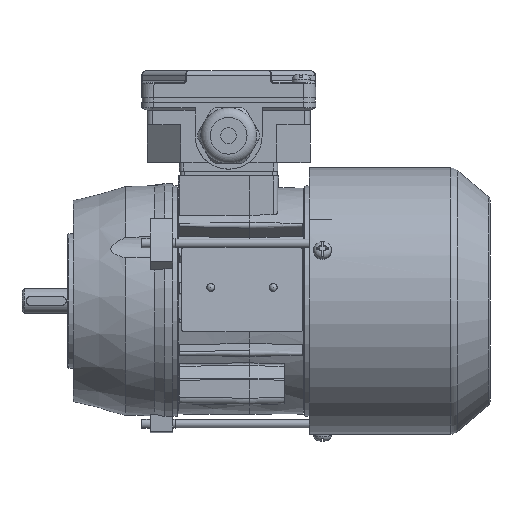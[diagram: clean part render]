
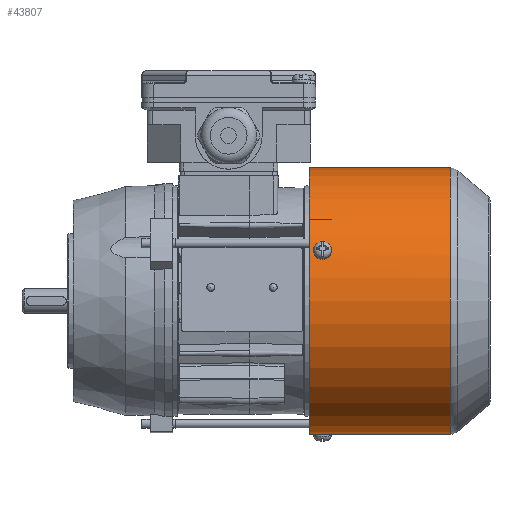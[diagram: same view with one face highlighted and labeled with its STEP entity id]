
A CAD part, front view. The second image highlights one B-rep face of the part: STEP entity #43807.
In plain terms, the highlighted cylindrical face has radius 59.6 mm (diameter 119.2 mm), a full revolution.
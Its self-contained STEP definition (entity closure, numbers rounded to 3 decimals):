
#1097=B_SPLINE_CURVE_WITH_KNOTS('',3,(#68936,#68937,#68938,#68939,#68940,
#68941,#68942),.UNSPECIFIED.,.F.,.F.,(4,1,1,1,4),(0.,0.002,
0.004,0.006,0.008),
 .UNSPECIFIED.);
#1099=B_SPLINE_CURVE_WITH_KNOTS('',3,(#68960,#68961,#68962,#68963,#68964,
#68965,#68966),.UNSPECIFIED.,.F.,.F.,(4,1,1,1,4),(0.,
0.002,0.004,0.006,0.008),
 .UNSPECIFIED.);
#1101=B_SPLINE_CURVE_WITH_KNOTS('',3,(#68988,#68989,#68990,#68991,#68992,
#68993,#68994),.UNSPECIFIED.,.F.,.F.,(4,1,1,1,4),(0.,0.002,
0.004,0.006,0.008),
 .UNSPECIFIED.);
#1103=B_SPLINE_CURVE_WITH_KNOTS('',3,(#69012,#69013,#69014,#69015,#69016,
#69017,#69018),.UNSPECIFIED.,.F.,.F.,(4,1,1,1,4),(0.,0.002,
0.004,0.006,0.008),
 .UNSPECIFIED.);
#1104=B_SPLINE_CURVE_WITH_KNOTS('',3,(#69023,#69024,#69025,#69026,#69027,
#69028,#69029),.UNSPECIFIED.,.F.,.F.,(4,1,1,1,4),(0.,
0.002,0.004,0.006,0.007),
 .UNSPECIFIED.);
#1105=B_SPLINE_CURVE_WITH_KNOTS('',3,(#69032,#69033,#69034,#69035,#69036,
#69037,#69038),.UNSPECIFIED.,.F.,.F.,(4,1,1,1,4),(0.,
0.002,0.004,0.006,0.007),
 .UNSPECIFIED.);
#14699=ORIENTED_EDGE('',*,*,#20120,.T.);
#14700=ORIENTED_EDGE('',*,*,#20117,.T.);
#14701=ORIENTED_EDGE('',*,*,#20114,.T.);
#14702=ORIENTED_EDGE('',*,*,#20122,.T.);
#14703=ORIENTED_EDGE('',*,*,#20123,.F.);
#14704=ORIENTED_EDGE('',*,*,#20124,.F.);
#14705=ORIENTED_EDGE('',*,*,#20107,.T.);
#14706=ORIENTED_EDGE('',*,*,#20104,.T.);
#14707=ORIENTED_EDGE('',*,*,#20101,.T.);
#14708=ORIENTED_EDGE('',*,*,#20109,.T.);
#14709=ORIENTED_EDGE('',*,*,#16346,.F.);
#14710=ORIENTED_EDGE('',*,*,#20110,.T.);
#16346=EDGE_CURVE('',#20956,#20956,#24041,.T.);
#20101=EDGE_CURVE('',#23454,#23457,#1097,.T.);
#20104=EDGE_CURVE('',#23458,#23454,#25081,.F.);
#20107=EDGE_CURVE('',#23460,#23458,#1099,.T.);
#20109=EDGE_CURVE('',#23457,#23460,#25083,.F.);
#20110=EDGE_CURVE('',#23462,#23462,#25084,.F.);
#20114=EDGE_CURVE('',#23463,#23466,#1101,.T.);
#20117=EDGE_CURVE('',#23467,#23463,#25086,.F.);
#20120=EDGE_CURVE('',#23469,#23467,#1103,.T.);
#20122=EDGE_CURVE('',#23466,#23469,#25088,.F.);
#20123=EDGE_CURVE('',#23471,#23472,#1104,.T.);
#20124=EDGE_CURVE('',#23472,#23471,#1105,.T.);
#20956=VERTEX_POINT('',#56552);
#23454=VERTEX_POINT('',#68924);
#23457=VERTEX_POINT('',#68935);
#23458=VERTEX_POINT('',#68945);
#23460=VERTEX_POINT('',#68951);
#23462=VERTEX_POINT('',#68973);
#23463=VERTEX_POINT('',#68976);
#23466=VERTEX_POINT('',#68987);
#23467=VERTEX_POINT('',#68997);
#23469=VERTEX_POINT('',#69003);
#23471=VERTEX_POINT('',#69030);
#23472=VERTEX_POINT('',#69031);
#24041=CIRCLE('',#44200,59.6);
#25081=CIRCLE('',#46755,59.6);
#25083=CIRCLE('',#46760,59.6);
#25084=CIRCLE('',#46762,59.6);
#25086=CIRCLE('',#46766,59.6);
#25088=CIRCLE('',#46770,59.6);
#27037=EDGE_LOOP('',(#14699,#14700,#14701,#14702));
#27038=EDGE_LOOP('',(#14703,#14704));
#27039=EDGE_LOOP('',(#14705,#14706,#14707,#14708));
#27040=EDGE_LOOP('',(#14709));
#27041=EDGE_LOOP('',(#14710));
#29154=FACE_BOUND('',#27037,.T.);
#29155=FACE_BOUND('',#27038,.T.);
#29156=FACE_BOUND('',#27039,.T.);
#29157=FACE_BOUND('',#27040,.T.);
#29158=FACE_BOUND('',#27041,.T.);
#29960=CYLINDRICAL_SURFACE('',#46771,59.6);
#43807=ADVANCED_FACE('',(#29154,#29155,#29156,#29157,#29158),#29960,.T.);
#44200=AXIS2_PLACEMENT_3D('',#56551,#47525,#47526);
#46755=AXIS2_PLACEMENT_3D('',#68948,#54544,#54545);
#46760=AXIS2_PLACEMENT_3D('',#68970,#54555,#54556);
#46762=AXIS2_PLACEMENT_3D('',#68972,#54559,#54560);
#46766=AXIS2_PLACEMENT_3D('',#69000,#54570,#54571);
#46770=AXIS2_PLACEMENT_3D('',#69021,#54579,#54580);
#46771=AXIS2_PLACEMENT_3D('',#69022,#54581,#54582);
#47525=DIRECTION('',(-1.,0.,0.));
#47526=DIRECTION('',(0.,0.,1.));
#54544=DIRECTION('',(-1.,0.,0.));
#54545=DIRECTION('',(0.,0.866,-0.5));
#54555=DIRECTION('',(1.,0.,0.));
#54556=DIRECTION('',(0.,-0.866,0.5));
#54559=DIRECTION('',(1.,0.,0.));
#54560=DIRECTION('',(0.,0.,-1.));
#54570=DIRECTION('',(-1.,0.,0.));
#54571=DIRECTION('',(0.,0.,1.));
#54579=DIRECTION('',(1.,0.,0.));
#54580=DIRECTION('',(0.,0.,-1.));
#54581=DIRECTION('',(-1.,0.,0.));
#54582=DIRECTION('',(0.,0.,1.));
#56551=CARTESIAN_POINT('',(26.5,0.,0.));
#56552=CARTESIAN_POINT('',(26.5,0.,59.6));
#68924=CARTESIAN_POINT('',(35.,46.437,37.36));
#68935=CARTESIAN_POINT('',(30.,46.437,37.36));
#68936=CARTESIAN_POINT('',(35.,46.437,37.36));
#68937=CARTESIAN_POINT('',(35.,46.023,37.874));
#68938=CARTESIAN_POINT('',(34.458,45.191,38.867));
#68939=CARTESIAN_POINT('',(32.502,44.648,39.479));
#68940=CARTESIAN_POINT('',(30.542,45.19,38.869));
#68941=CARTESIAN_POINT('',(30.,46.023,37.874));
#68942=CARTESIAN_POINT('',(30.,46.437,37.36));
#68945=CARTESIAN_POINT('',(35.,47.484,36.02));
#68948=CARTESIAN_POINT('',(35.,0.,0.));
#68951=CARTESIAN_POINT('',(30.,47.484,36.02));
#68960=CARTESIAN_POINT('',(30.,47.484,36.02));
#68961=CARTESIAN_POINT('',(30.,47.883,35.493));
#68962=CARTESIAN_POINT('',(30.542,48.645,34.446));
#68963=CARTESIAN_POINT('',(32.498,49.108,33.771));
#68964=CARTESIAN_POINT('',(34.458,48.646,34.444));
#68965=CARTESIAN_POINT('',(35.,47.883,35.493));
#68966=CARTESIAN_POINT('',(35.,47.484,36.02));
#68970=CARTESIAN_POINT('',(30.,0.,0.));
#68972=CARTESIAN_POINT('',(89.809,0.,0.));
#68973=CARTESIAN_POINT('',(89.809,0.,-59.6));
#68976=CARTESIAN_POINT('',(35.,-55.573,21.536));
#68987=CARTESIAN_POINT('',(30.,-55.573,21.536));
#68988=CARTESIAN_POINT('',(35.,-55.573,21.536));
#68989=CARTESIAN_POINT('',(35.,-55.812,20.92));
#68990=CARTESIAN_POINT('',(34.458,-56.255,19.703));
#68991=CARTESIAN_POINT('',(32.502,-56.514,18.927));
#68992=CARTESIAN_POINT('',(30.542,-56.256,19.701));
#68993=CARTESIAN_POINT('',(30.,-55.812,20.92));
#68994=CARTESIAN_POINT('',(30.,-55.573,21.536));
#68997=CARTESIAN_POINT('',(35.,-54.936,23.112));
#69000=CARTESIAN_POINT('',(35.,0.,0.));
#69003=CARTESIAN_POINT('',(30.,-54.936,23.112));
#69012=CARTESIAN_POINT('',(30.,-54.936,23.112));
#69013=CARTESIAN_POINT('',(30.,-54.68,23.721));
#69014=CARTESIAN_POINT('',(30.542,-54.154,24.905));
#69015=CARTESIAN_POINT('',(32.498,-53.8,25.643));
#69016=CARTESIAN_POINT('',(34.458,-54.153,24.907));
#69017=CARTESIAN_POINT('',(35.,-54.68,23.721));
#69018=CARTESIAN_POINT('',(35.,-54.936,23.112));
#69021=CARTESIAN_POINT('',(30.,0.,0.));
#69022=CARTESIAN_POINT('',(-33.5,0.,0.));
#69023=CARTESIAN_POINT('',(35.,8.295,-59.02));
#69024=CARTESIAN_POINT('',(34.937,7.681,-59.106));
#69025=CARTESIAN_POINT('',(34.356,6.499,-59.249));
#69026=CARTESIAN_POINT('',(32.502,5.777,-59.318));
#69027=CARTESIAN_POINT('',(30.649,6.493,-59.25));
#69028=CARTESIAN_POINT('',(30.063,7.681,-59.106));
#69029=CARTESIAN_POINT('',(30.,8.295,-59.02));
#69030=CARTESIAN_POINT('',(35.,8.295,-59.02));
#69031=CARTESIAN_POINT('',(30.,8.295,-59.02));
#69032=CARTESIAN_POINT('',(30.,8.295,-59.02));
#69033=CARTESIAN_POINT('',(30.063,8.908,-58.934));
#69034=CARTESIAN_POINT('',(30.644,10.084,-58.746));
#69035=CARTESIAN_POINT('',(32.498,10.797,-58.613));
#69036=CARTESIAN_POINT('',(34.351,10.09,-58.745));
#69037=CARTESIAN_POINT('',(34.937,8.908,-58.934));
#69038=CARTESIAN_POINT('',(35.,8.295,-59.02));
